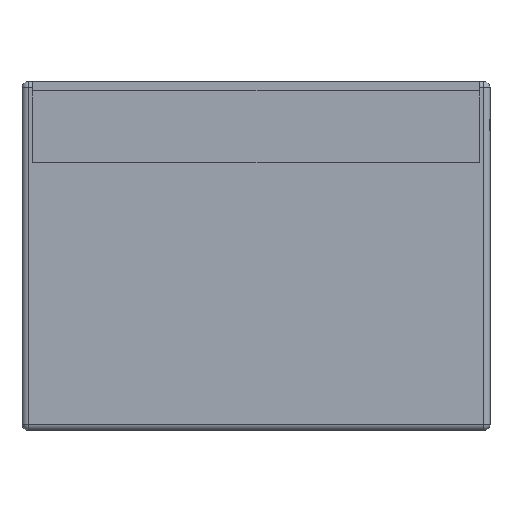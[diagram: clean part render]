
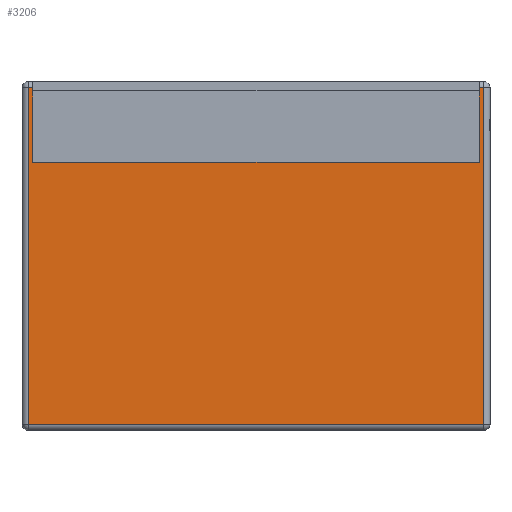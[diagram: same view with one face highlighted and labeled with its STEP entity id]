
A CAD part, front view. The second image highlights one B-rep face of the part: STEP entity #3206.
In plain terms, the highlighted planar face has unit normal (0, -1, 0).
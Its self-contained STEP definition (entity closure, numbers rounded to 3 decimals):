
#99 = ORIENTED_EDGE ( 'NONE', *, *, #471, .T. ) ;
#137 = CARTESIAN_POINT ( 'NONE',  ( 52.5, 0., 22. ) ) ;
#177 = CARTESIAN_POINT ( 'NONE',  ( -52.5, 0., 22. ) ) ;
#264 = CARTESIAN_POINT ( 'NONE',  ( 53.5, 0., 39.5 ) ) ;
#281 = EDGE_CURVE ( 'NONE', #2231, #3382, #2114, .T. ) ;
#465 = AXIS2_PLACEMENT_3D ( 'NONE', #1290, #2405, #3234 ) ;
#471 = EDGE_CURVE ( 'NONE', #3382, #2151, #2842, .T. ) ;
#487 = FACE_OUTER_BOUND ( 'NONE', #1337, .T. ) ;
#564 = ORIENTED_EDGE ( 'NONE', *, *, #1321, .T. ) ;
#602 = CARTESIAN_POINT ( 'NONE',  ( -53.5, 0., -39.5 ) ) ;
#614 = ORIENTED_EDGE ( 'NONE', *, *, #3326, .T. ) ;
#613 = LINE ( 'NONE', #2930, #2000 ) ;
#717 = VERTEX_POINT ( 'NONE', #2226 ) ;
#958 = VERTEX_POINT ( 'NONE', #137 ) ;
#959 = EDGE_CURVE ( 'NONE', #1920, #3091, #2081, .T. ) ;
#962 = ORIENTED_EDGE ( 'NONE', *, *, #3392, .F. ) ;
#992 = LINE ( 'NONE', #3250, #1079 ) ;
#1027 = DIRECTION ( 'NONE',  ( 1., 0., 0. ) ) ;
#1052 = ORIENTED_EDGE ( 'NONE', *, *, #959, .F. ) ;
#1073 = DIRECTION ( 'NONE',  ( 0., 0., 1. ) ) ;
#1079 = VECTOR ( 'NONE', #2447, 1000. ) ;
#1176 = VECTOR ( 'NONE', #1191, 1000. ) ;
#1191 = DIRECTION ( 'NONE',  ( 0., 0., -1. ) ) ;
#1287 = LINE ( 'NONE', #2190, #1683 ) ;
#1290 = CARTESIAN_POINT ( 'NONE',  ( 0., 0., 0. ) ) ;
#1299 = VECTOR ( 'NONE', #2387, 1000. ) ;
#1321 = EDGE_CURVE ( 'NONE', #2151, #2098, #3090, .T. ) ;
#1337 = EDGE_LOOP ( 'NONE', ( #1052, #1833, #614, #2136, #99, #564, #962, #1723 ) ) ;
#1366 = CARTESIAN_POINT ( 'NONE',  ( 52.5, 0., 39.5 ) ) ;
#1418 = LINE ( 'NONE', #1623, #2452 ) ;
#1511 = EDGE_CURVE ( 'NONE', #1920, #717, #992, .T. ) ;
#1623 = CARTESIAN_POINT ( 'NONE',  ( 52.5, 0., 39. ) ) ;
#1683 = VECTOR ( 'NONE', #2482, 1000. ) ;
#1723 = ORIENTED_EDGE ( 'NONE', *, *, #3031, .F. ) ;
#1833 = ORIENTED_EDGE ( 'NONE', *, *, #1511, .T. ) ;
#1834 = DIRECTION ( 'NONE',  ( -1., 0., 0. ) ) ;
#1920 = VERTEX_POINT ( 'NONE', #2360 ) ;
#1928 = CARTESIAN_POINT ( 'NONE',  ( 53.5, 0., -39.5 ) ) ;
#2000 = VECTOR ( 'NONE', #1027, 1000. ) ;
#2081 = LINE ( 'NONE', #2281, #1176 ) ;
#2098 = VERTEX_POINT ( 'NONE', #1366 ) ;
#2114 = LINE ( 'NONE', #2603, #3478 ) ;
#2136 = ORIENTED_EDGE ( 'NONE', *, *, #281, .T. ) ;
#2151 = VERTEX_POINT ( 'NONE', #264 ) ;
#2190 = CARTESIAN_POINT ( 'NONE',  ( -53.5, 0., -41. ) ) ;
#2226 = CARTESIAN_POINT ( 'NONE',  ( -53.5, 0., 39.5 ) ) ;
#2231 = VERTEX_POINT ( 'NONE', #602 ) ;
#2281 = CARTESIAN_POINT ( 'NONE',  ( -52.5, 0., 39. ) ) ;
#2360 = CARTESIAN_POINT ( 'NONE',  ( -52.5, 0., 39.5 ) ) ;
#2367 = CARTESIAN_POINT ( 'NONE',  ( 53.5, 0., 41. ) ) ;
#2382 = PLANE ( 'NONE',  #465 ) ;
#2387 = DIRECTION ( 'NONE',  ( 0., 0., 1. ) ) ;
#2405 = DIRECTION ( 'NONE',  ( 0., -1., 0. ) ) ;
#2447 = DIRECTION ( 'NONE',  ( -1., 0., 0. ) ) ;
#2452 = VECTOR ( 'NONE', #1073, 1000. ) ;
#2482 = DIRECTION ( 'NONE',  ( 0., 0., -1. ) ) ;
#2603 = CARTESIAN_POINT ( 'NONE',  ( 55., 0., -39.5 ) ) ;
#2842 = LINE ( 'NONE', #2367, #1299 ) ;
#2872 = DIRECTION ( 'NONE',  ( 1., 0., 0. ) ) ;
#2930 = CARTESIAN_POINT ( 'NONE',  ( -52.5, 0., 22. ) ) ;
#3031 = EDGE_CURVE ( 'NONE', #3091, #958, #613, .T. ) ;
#3090 = LINE ( 'NONE', #3470, #3218 ) ;
#3091 = VERTEX_POINT ( 'NONE', #177 ) ;
#3206 = ADVANCED_FACE ( 'NONE', ( #487 ), #2382, .T. ) ;
#3218 = VECTOR ( 'NONE', #1834, 1000. ) ;
#3234 = DIRECTION ( 'NONE',  ( 0., 0., -1. ) ) ;
#3250 = CARTESIAN_POINT ( 'NONE',  ( -55., 0., 39.5 ) ) ;
#3326 = EDGE_CURVE ( 'NONE', #717, #2231, #1287, .T. ) ;
#3382 = VERTEX_POINT ( 'NONE', #1928 ) ;
#3392 = EDGE_CURVE ( 'NONE', #958, #2098, #1418, .T. ) ;
#3470 = CARTESIAN_POINT ( 'NONE',  ( -55., 0., 39.5 ) ) ;
#3478 = VECTOR ( 'NONE', #2872, 1000. ) ;
